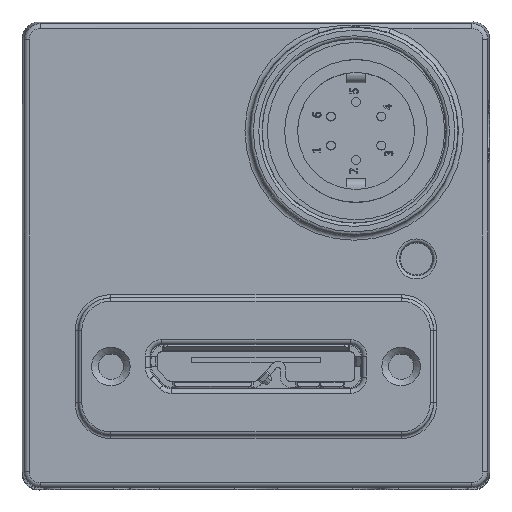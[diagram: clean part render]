
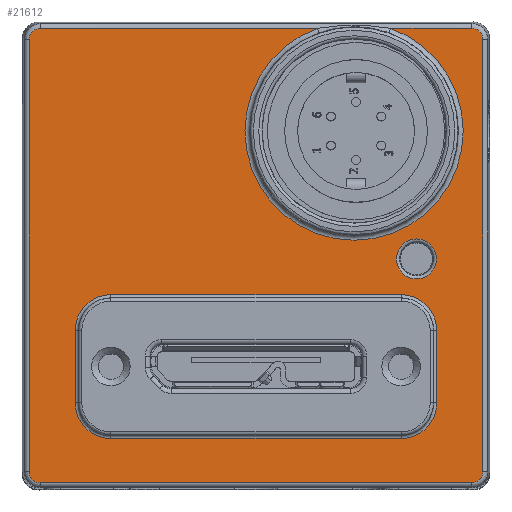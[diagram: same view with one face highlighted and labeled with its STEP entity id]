
A CAD part, top view. The second image highlights one B-rep face of the part: STEP entity #21612.
In plain terms, the highlighted planar face has unit normal (0, 0, 1).
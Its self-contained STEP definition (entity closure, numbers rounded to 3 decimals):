
#21307=CARTESIAN_POINT('',(8.358,14.085,36.3));
#21308=VERTEX_POINT('',#21307);
#21327=CARTESIAN_POINT('',(3.812,14.085,36.3));
#21328=VERTEX_POINT('',#21327);
#21336=CARTESIAN_POINT('',(6.085,7.71,36.3));
#21337=DIRECTION('',(0.0,0.0,1.0));
#21338=DIRECTION('',(0.0,-1.0,0.0));
#21339=AXIS2_PLACEMENT_3D('',#21336,#21337,#21338);
#21340=CIRCLE('',#21339,6.768);
#21341=EDGE_CURVE('',#21328,#21308,#21340,.T.);
#21449=CARTESIAN_POINT('',(0.,-0.012,36.3));
#21450=DIRECTION('',(0.0,0.0,-1.0));
#21451=DIRECTION('',(-1.0,0.0,0.0));
#21452=AXIS2_PLACEMENT_3D('',#21449,#21450,#21451);
#21453=PLANE('',#21452);
#21454=ORIENTED_EDGE('',*,*,#21341,.F.);
#21455=CARTESIAN_POINT('',(-13.377,14.085,36.3));
#21456=VERTEX_POINT('',#21455);
#21457=CARTESIAN_POINT('',(-13.377,14.085,36.3));
#21458=DIRECTION('',(1.0,0.0,0.0));
#21459=VECTOR('',#21458,17.189);
#21460=LINE('',#21457,#21459);
#21461=EDGE_CURVE('',#21456,#21328,#21460,.T.);
#21462=ORIENTED_EDGE('',*,*,#21461,.F.);
#21463=CARTESIAN_POINT('',(-14.077,13.385,36.3));
#21464=VERTEX_POINT('',#21463);
#21465=CARTESIAN_POINT('',(-13.377,13.384,36.3));
#21466=DIRECTION('',(0.,0.,-1.0));
#21467=DIRECTION('',(-0.707,0.707,0.));
#21468=AXIS2_PLACEMENT_3D('',#21465,#21466,#21467);
#21469=ELLIPSE('',#21468,0.7,0.7);
#21470=EDGE_CURVE('',#21464,#21456,#21469,.T.);
#21471=ORIENTED_EDGE('',*,*,#21470,.F.);
#21472=CARTESIAN_POINT('',(-14.077,-13.4,36.3));
#21473=VERTEX_POINT('',#21472);
#21474=CARTESIAN_POINT('',(-14.077,-13.4,36.3));
#21475=DIRECTION('',(0.0,1.0,0.0));
#21476=VECTOR('',#21475,26.785);
#21477=LINE('',#21474,#21476);
#21478=EDGE_CURVE('',#21473,#21464,#21477,.T.);
#21479=ORIENTED_EDGE('',*,*,#21478,.F.);
#21480=CARTESIAN_POINT('',(-13.377,-14.1,36.3));
#21481=VERTEX_POINT('',#21480);
#21482=CARTESIAN_POINT('',(-13.377,-13.4,36.3));
#21483=DIRECTION('',(0.,0.,-1.0));
#21484=DIRECTION('',(-1.0,0.,0.));
#21485=AXIS2_PLACEMENT_3D('',#21482,#21483,#21484);
#21486=ELLIPSE('',#21485,0.7,0.7);
#21487=EDGE_CURVE('',#21481,#21473,#21486,.T.);
#21488=ORIENTED_EDGE('',*,*,#21487,.F.);
#21489=CARTESIAN_POINT('',(13.377,-14.1,36.3));
#21490=VERTEX_POINT('',#21489);
#21491=CARTESIAN_POINT('',(13.377,-14.1,36.3));
#21492=DIRECTION('',(-1.0,0.0,0.0));
#21493=VECTOR('',#21492,26.753);
#21494=LINE('',#21491,#21493);
#21495=EDGE_CURVE('',#21490,#21481,#21494,.T.);
#21496=ORIENTED_EDGE('',*,*,#21495,.F.);
#21497=CARTESIAN_POINT('',(14.077,-13.4,36.3));
#21498=VERTEX_POINT('',#21497);
#21499=CARTESIAN_POINT('',(13.377,-13.4,36.3));
#21500=DIRECTION('',(0.,0.,-1.0));
#21501=DIRECTION('',(1.0,0.,0.));
#21502=AXIS2_PLACEMENT_3D('',#21499,#21500,#21501);
#21503=ELLIPSE('',#21502,0.7,0.7);
#21504=EDGE_CURVE('',#21498,#21490,#21503,.T.);
#21505=ORIENTED_EDGE('',*,*,#21504,.F.);
#21506=CARTESIAN_POINT('',(14.077,13.385,36.3));
#21507=VERTEX_POINT('',#21506);
#21508=CARTESIAN_POINT('',(14.077,13.385,36.3));
#21509=DIRECTION('',(0.0,-1.0,0.0));
#21510=VECTOR('',#21509,26.785);
#21511=LINE('',#21508,#21510);
#21512=EDGE_CURVE('',#21507,#21498,#21511,.T.);
#21513=ORIENTED_EDGE('',*,*,#21512,.F.);
#21514=CARTESIAN_POINT('',(13.377,14.085,36.3));
#21515=VERTEX_POINT('',#21514);
#21516=CARTESIAN_POINT('',(13.377,13.384,36.3));
#21517=DIRECTION('',(0.,0.,-1.0));
#21518=DIRECTION('',(0.707,0.707,0.));
#21519=AXIS2_PLACEMENT_3D('',#21516,#21517,#21518);
#21520=ELLIPSE('',#21519,0.7,0.7);
#21521=EDGE_CURVE('',#21515,#21507,#21520,.T.);
#21522=ORIENTED_EDGE('',*,*,#21521,.F.);
#21523=CARTESIAN_POINT('',(8.358,14.085,36.3));
#21524=DIRECTION('',(1.0,0.0,0.0));
#21525=VECTOR('',#21524,5.019);
#21526=LINE('',#21523,#21525);
#21527=EDGE_CURVE('',#21308,#21515,#21526,.T.);
#21528=ORIENTED_EDGE('',*,*,#21527,.F.);
#21529=EDGE_LOOP('',(#21454,#21462,#21471,#21479,#21488,#21496,#21505,#21513,#21522,#21528));
#21530=FACE_OUTER_BOUND('',#21529,.T.);
#21531=CARTESIAN_POINT('',(8.71,-0.22,36.3));
#21532=VERTEX_POINT('',#21531);
#21533=CARTESIAN_POINT('',(9.95,-0.22,36.3));
#21534=DIRECTION('',(0.0,0.0,1.0));
#21535=DIRECTION('',(1.0,0.0,0.0));
#21536=AXIS2_PLACEMENT_3D('',#21533,#21534,#21535);
#21537=CIRCLE('',#21536,1.24);
#21538=EDGE_CURVE('',#21532,#21532,#21537,.T.);
#21539=ORIENTED_EDGE('',*,*,#21538,.F.);
#21540=EDGE_LOOP('',(#21539));
#21541=FACE_BOUND('',#21540,.T.);
#21542=CARTESIAN_POINT('',(9.,-11.356,36.3));
#21543=VERTEX_POINT('',#21542);
#21544=CARTESIAN_POINT('',(11.211,-9.145,36.3));
#21545=VERTEX_POINT('',#21544);
#21546=CARTESIAN_POINT('',(9.,-9.145,36.3));
#21547=DIRECTION('',(0.,0.,1.0));
#21548=DIRECTION('',(0.707,-0.707,0.));
#21549=AXIS2_PLACEMENT_3D('',#21546,#21547,#21548);
#21550=CIRCLE('',#21549,2.211);
#21551=EDGE_CURVE('',#21543,#21545,#21550,.T.);
#21552=ORIENTED_EDGE('',*,*,#21551,.F.);
#21553=CARTESIAN_POINT('',(-9.,-11.356,36.3));
#21554=VERTEX_POINT('',#21553);
#21555=CARTESIAN_POINT('',(-9.,-11.356,36.3));
#21556=DIRECTION('',(1.0,0.0,0.0));
#21557=VECTOR('',#21556,18.0);
#21558=LINE('',#21555,#21557);
#21559=EDGE_CURVE('',#21554,#21543,#21558,.T.);
#21560=ORIENTED_EDGE('',*,*,#21559,.F.);
#21561=CARTESIAN_POINT('',(-11.211,-9.145,36.3));
#21562=VERTEX_POINT('',#21561);
#21563=CARTESIAN_POINT('',(-9.,-9.145,36.3));
#21564=DIRECTION('',(0.,0.,1.0));
#21565=DIRECTION('',(-0.707,-0.707,0.));
#21566=AXIS2_PLACEMENT_3D('',#21563,#21564,#21565);
#21567=CIRCLE('',#21566,2.211);
#21568=EDGE_CURVE('',#21562,#21554,#21567,.T.);
#21569=ORIENTED_EDGE('',*,*,#21568,.F.);
#21570=CARTESIAN_POINT('',(-11.211,-4.645,36.3));
#21571=VERTEX_POINT('',#21570);
#21572=CARTESIAN_POINT('',(-11.211,-4.645,36.3));
#21573=DIRECTION('',(0.0,-1.0,0.0));
#21574=VECTOR('',#21573,4.5);
#21575=LINE('',#21572,#21574);
#21576=EDGE_CURVE('',#21571,#21562,#21575,.T.);
#21577=ORIENTED_EDGE('',*,*,#21576,.F.);
#21578=CARTESIAN_POINT('',(-9.,-2.434,36.3));
#21579=VERTEX_POINT('',#21578);
#21580=CARTESIAN_POINT('',(-9.,-4.645,36.3));
#21581=DIRECTION('',(0.,0.,1.));
#21582=DIRECTION('',(-0.707,0.707,0.));
#21583=AXIS2_PLACEMENT_3D('',#21580,#21581,#21582);
#21584=CIRCLE('',#21583,2.211);
#21585=EDGE_CURVE('',#21579,#21571,#21584,.T.);
#21586=ORIENTED_EDGE('',*,*,#21585,.F.);
#21587=CARTESIAN_POINT('',(9.,-2.434,36.3));
#21588=VERTEX_POINT('',#21587);
#21589=CARTESIAN_POINT('',(9.,-2.434,36.3));
#21590=DIRECTION('',(-1.0,0.0,0.0));
#21591=VECTOR('',#21590,18.);
#21592=LINE('',#21589,#21591);
#21593=EDGE_CURVE('',#21588,#21579,#21592,.T.);
#21594=ORIENTED_EDGE('',*,*,#21593,.F.);
#21595=CARTESIAN_POINT('',(11.211,-4.645,36.3));
#21596=VERTEX_POINT('',#21595);
#21597=CARTESIAN_POINT('',(9.,-4.645,36.3));
#21598=DIRECTION('',(0.,0.,1.0));
#21599=DIRECTION('',(0.707,0.707,0.));
#21600=AXIS2_PLACEMENT_3D('',#21597,#21598,#21599);
#21601=CIRCLE('',#21600,2.211);
#21602=EDGE_CURVE('',#21596,#21588,#21601,.T.);
#21603=ORIENTED_EDGE('',*,*,#21602,.F.);
#21604=CARTESIAN_POINT('',(11.211,-9.145,36.3));
#21605=DIRECTION('',(0.0,1.0,0.0));
#21606=VECTOR('',#21605,4.5);
#21607=LINE('',#21604,#21606);
#21608=EDGE_CURVE('',#21545,#21596,#21607,.T.);
#21609=ORIENTED_EDGE('',*,*,#21608,.F.);
#21610=EDGE_LOOP('',(#21552,#21560,#21569,#21577,#21586,#21594,#21603,#21609));
#21611=FACE_BOUND('',#21610,.T.);
#21612=ADVANCED_FACE('',(#21530,#21541,#21611),#21453,.F.);
